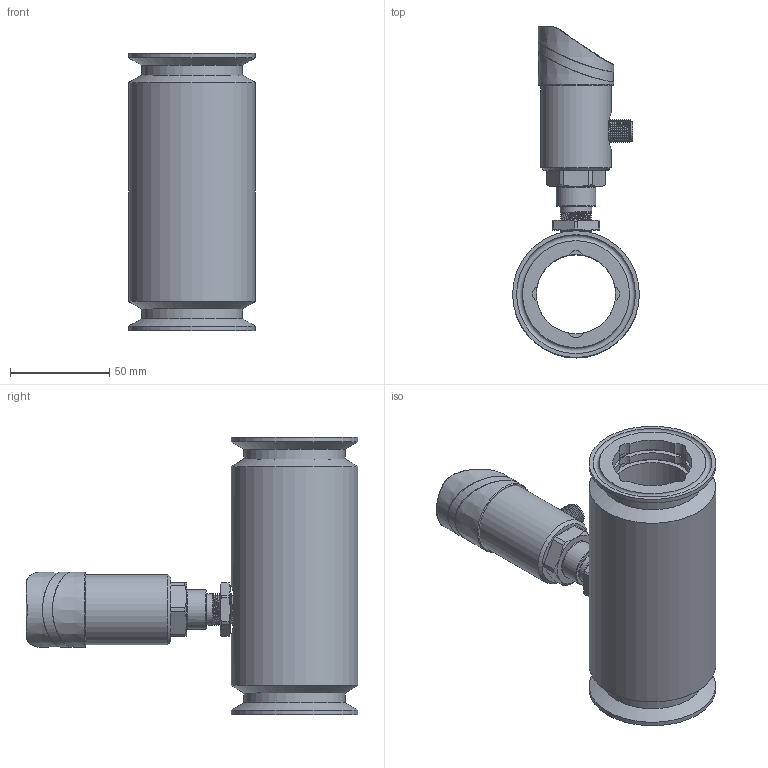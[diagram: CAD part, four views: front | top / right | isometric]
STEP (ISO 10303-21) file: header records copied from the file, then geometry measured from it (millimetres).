
FILE_DESCRIPTION( (''), '2;1');
FILE_NAME( 'QTKE_DN40_tri-clamp.step', '2024-10-15T08:36:59+08:00', (''), (''), '', '', '');
FILE_SCHEMA (('AUTOMOTIVE_DESIGN { 1 0 10303 214 3 1 1 1 }'));
Length unit declared in the file: millimetre
Products named in the file (1): QTKE DN40_tri-clamp
Bounding box: 64 x 167.5 x 140 mm (x, y, z)
Volume: 312269.7 mm3; surface area: 82088.8 mm2
Topology: 5 solids, 6 shells, 761 faces, 1974 edges, 1292 vertices
Faces by surface type: plane 273, cylinder 169, extrusion 141, cone 75, bspline 58, torus 34, sphere 11
Full cylindrical faces by diameter (mm): 1.689 x1, 2.7 x3, 12 x1, 15.9 x1, 16.5 x2, 20 x1, 23 x3, 26 x5, 35.5 x1, 37.001 x1, 40 x1, 45 x4, 51 x2, 64 x3
Entity records: 34260 total; most frequent: CARTESIAN_POINT 15348, ORIENTED_EDGE 3736, DIRECTION 3061, EDGE_CURVE 1868, VERTEX_POINT 1252, AXIS2_PLACEMENT_3D 1038, VECTOR 985, EDGE_LOOP 900
